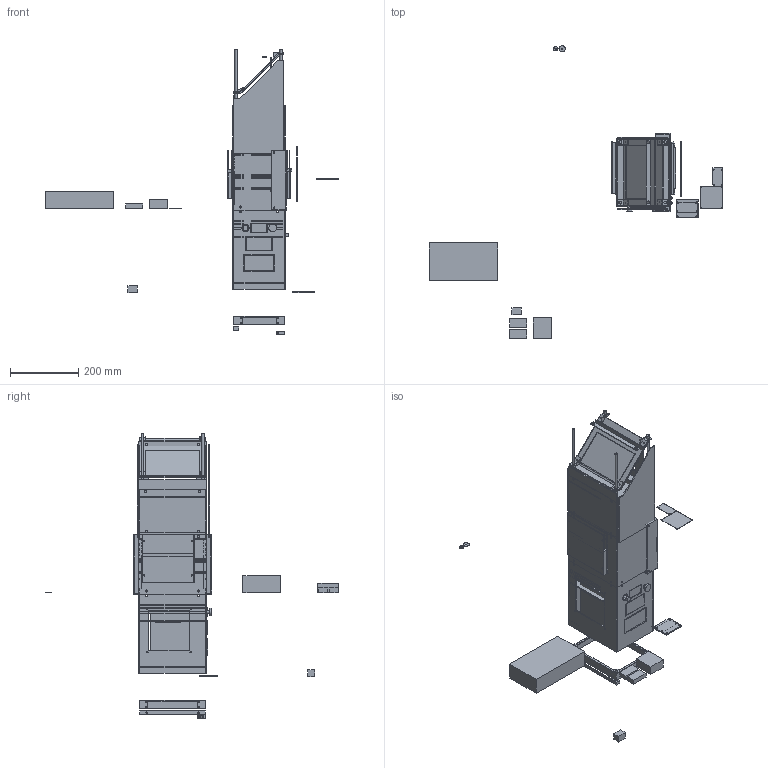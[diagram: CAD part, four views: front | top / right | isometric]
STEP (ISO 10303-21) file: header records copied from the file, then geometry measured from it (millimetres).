
FILE_DESCRIPTION(('HOOPS Exchange Step'),'2;1');
FILE_NAME('/private/var/mobile/Containers/Data/Application/87BF6C49-AB67-42BD-9AED-8B9B43AFA49D/tmp/export/temp_export','2023-07-14T15:12:03+02:00',('mobile'),('Shapr3D Limited'),'HOOPS Exchange 2022.2','Shapr3D','Authorized');
FILE_SCHEMA( ('AUTOMOTIVE_DESIGN { 1 0 10303 214 1 1 1 1 }') );
Length unit declared in the file: millimetre
Products named in the file (24): M3 scheibe; Lcd (1); Polariser (1); Back (1); Front (1); Fresnel (1); Projector lense (1); Fan (1); Mirror (1); Led (1); Led2; Done; Spacer; Psu (1); Holder; Parts; Top; Top2; Abdeckung; Middle; Down; Sidepanel (1); Stangen (1); Current
Assembly tree (23 placements, depth 4):
  Current
    M3 scheibe
    Lcd (1)
    Fresnel (1)
      Polariser (1)
      Back (1)
      Front (1)
    Projector lense (1)
    Fan (1)
    Mirror (1)
    Led (1)
    Led2
    Done
    Spacer
    Psu (1)
    Sidepanel (1)
      Holder
      Parts
      Top
      Top2
      Middle
        Abdeckung
      Down
    Stangen (1)
Bounding box: 860 x 859.1 x 836 mm (x, y, z)
Volume: 7366519.8 mm3; surface area: 2705972.2 mm2
Topology: 90 solids, 90 shells, 1675 faces, 4842 edges, 3378 vertices
Faces by surface type: plane 1206, cylinder 469
Full cylindrical faces by diameter (mm): 2.4 x4, 3 x34, 3.2 x55, 3.5 x10, 3.6 x4, 4 x73, 6 x24, 6.4 x8, 6.5 x16, 7 x2, 7.2 x1, 8 x72, 8.2 x8, 8.4 x7, 8.8 x2, 9 x12, 9.2 x2, 12 x4, 13.2 x1, 15 x2, 17 x2, 18.2 x1, 21.2 x1, 23 x1, 85 x1, 86 x1
Entity records: 57880 total; most frequent: CARTESIAN_POINT 9919, ORIENTED_EDGE 9684, DIRECTION 9646, EDGE_CURVE 4842, VECTOR 3436, LINE 3436, VERTEX_POINT 3378, AXIS2_PLACEMENT_3D 3105
